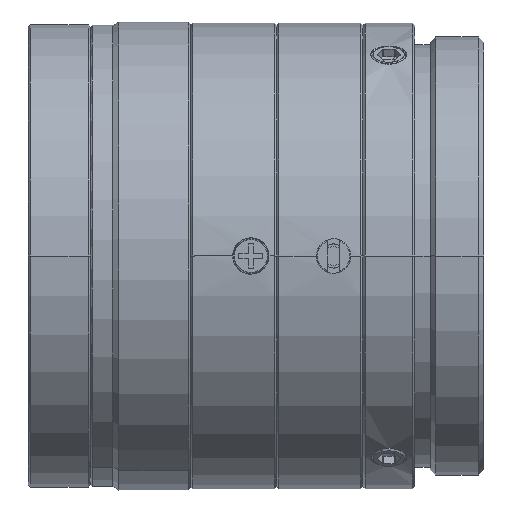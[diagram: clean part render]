
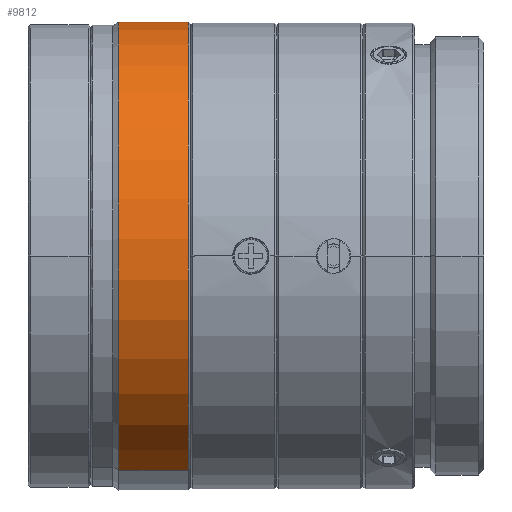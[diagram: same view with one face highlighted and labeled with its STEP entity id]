
A CAD part, front view. The second image highlights one B-rep face of the part: STEP entity #9812.
In plain terms, the highlighted cylindrical face has radius 13.6 mm (diameter 27.2 mm), a partial arc.
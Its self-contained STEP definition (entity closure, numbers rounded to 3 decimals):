
#2102=CARTESIAN_POINT('',(-16.32,0.,
0.));
#2103=DIRECTION('',(-1.,0.,0.));
#2104=DIRECTION('',(0.,-0.408,-0.913));
#2105=AXIS2_PLACEMENT_3D('',#2102,#2103,#2104);
#2111=DIRECTION('',(-1.,0.,0.));
#2112=VECTOR('',#2111,4.034);
#2113=CARTESIAN_POINT('',(-16.32,-5.547,
-12.417));
#2114=LINE('',#2113,#2112);
#2115=DIRECTION('',(1.,0.,0.));
#2116=VECTOR('',#2115,4.034);
#2117=CARTESIAN_POINT('',(-20.354,5.547,12.417));
#2118=LINE('',#2117,#2116);
#2154=CARTESIAN_POINT('',(-20.354,0.,0.));
#2155=DIRECTION('',(1.,0.,0.));
#2156=DIRECTION('',(0.,0.408,0.913));
#2157=AXIS2_PLACEMENT_3D('',#2154,#2155,#2156);
#6629=CARTESIAN_POINT('',(-16.32,5.547,12.417));
#6630=CARTESIAN_POINT('',(-16.32,-5.547,
-12.417));
#6631=VERTEX_POINT('',#6629);
#6632=VERTEX_POINT('',#6630);
#6633=CARTESIAN_POINT('',(-20.354,5.547,12.417));
#6634=VERTEX_POINT('',#6633);
#6635=CARTESIAN_POINT('',(-20.354,-5.547,
-12.417));
#6636=VERTEX_POINT('',#6635);
#9798=CARTESIAN_POINT('',(-20.434,0.,0.));
#9799=DIRECTION('',(1.,0.,0.));
#9800=DIRECTION('',(0.,0.408,0.913));
#9801=AXIS2_PLACEMENT_3D('',#9798,#9799,#9800);
#9802=CYLINDRICAL_SURFACE('',#9801,13.6);
#9803=ORIENTED_EDGE('',*,*,#9792,.F.);
#9805=ORIENTED_EDGE('',*,*,#9804,.T.);
#9807=ORIENTED_EDGE('',*,*,#9806,.F.);
#9809=ORIENTED_EDGE('',*,*,#9808,.T.);
#9810=EDGE_LOOP('',(#9803,#9805,#9807,#9809));
#9811=FACE_OUTER_BOUND('',#9810,.F.);
#2106=CIRCLE('',#2105,13.6);
#2158=CIRCLE('',#2157,13.6);
#9792=EDGE_CURVE('',#6632,#6631,#2106,.T.);
#9804=EDGE_CURVE('',#6632,#6636,#2114,.T.);
#9806=EDGE_CURVE('',#6634,#6636,#2158,.T.);
#9808=EDGE_CURVE('',#6634,#6631,#2118,.T.);
#9812=ADVANCED_FACE('',(#9811),#9802,.T.);
